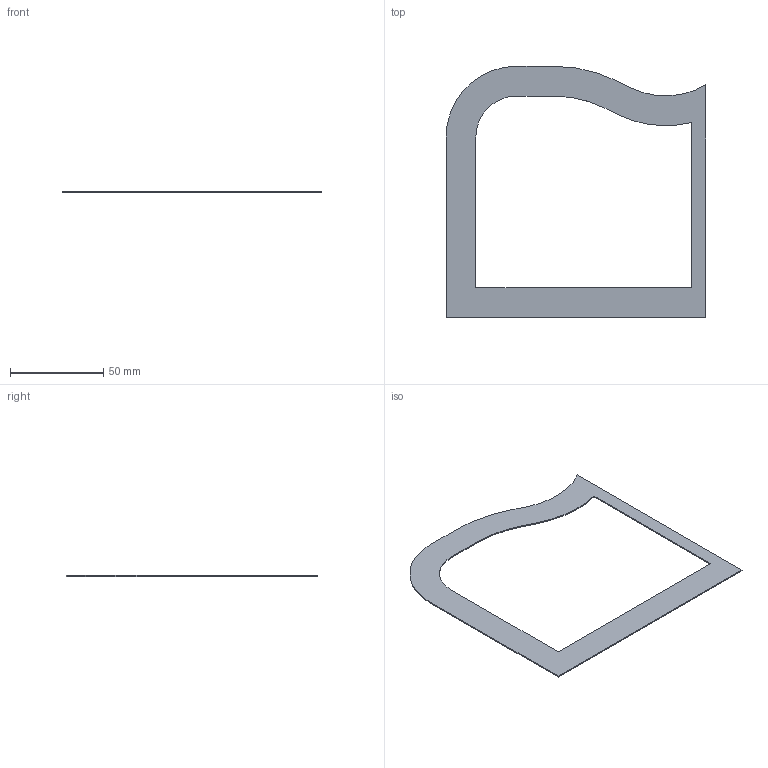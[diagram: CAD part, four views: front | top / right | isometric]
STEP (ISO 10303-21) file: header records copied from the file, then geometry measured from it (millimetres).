
FILE_DESCRIPTION(('STEP AP203'), '1');
FILE_NAME('鸆摠鍙 1', '', ('UNSPECIFIED'), ('UNSPECIFIED'), 'ASCON STEP Converter 1.3', 'ASCON Math Kernel', '');
FILE_SCHEMA(('CONFIG_CONTROL_DESIGN'));
Length unit declared in the file: millimetre
Bounding box: 139.56 x 135.07 x 0.6 mm (x, y, z)
Volume: 3987.6 mm3; surface area: 13858.4 mm2
Topology: 1 solids, 1 shells, 18 faces, 48 edges, 32 vertices
Faces by surface type: plane 12, cylinder 6
Entity records: 756 total; most frequent: CARTESIAN_POINT 99, DIRECTION 98, ORIENTED_EDGE 96, EDGE_CURVE 48, LINE 36, VECTOR 36, VERTEX_POINT 32, AXIS2_PLACEMENT_3D 31
